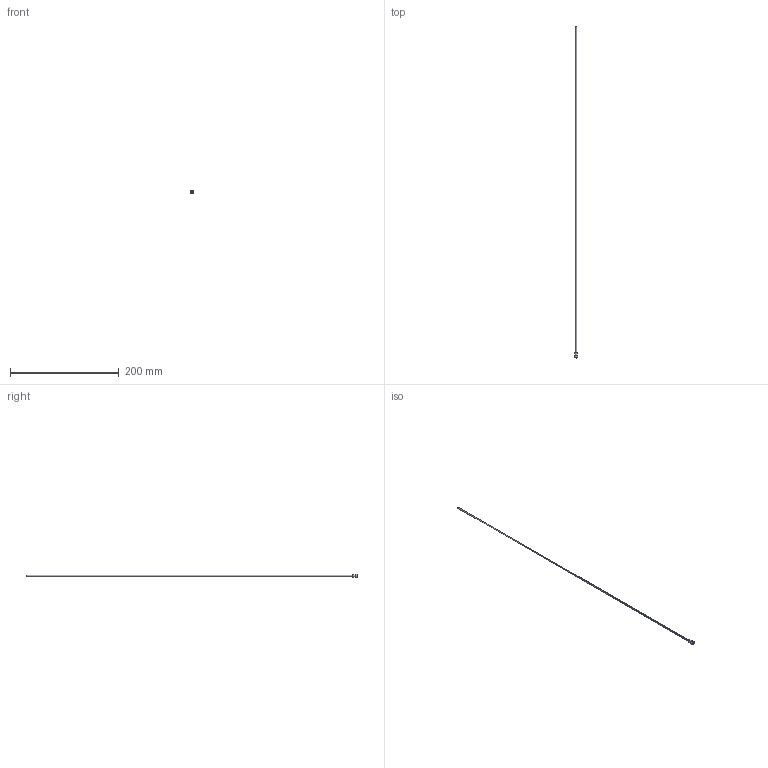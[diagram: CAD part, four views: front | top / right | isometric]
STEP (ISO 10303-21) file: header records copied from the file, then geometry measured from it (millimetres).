
FILE_DESCRIPTION(/* description */ (''),/* implementation_level */ '2;1');
FILE_NAME(/* name */ 'C:/Users/drich/Desktop/JR090T-24 v1.step',/* time_stamp */ '2019-12-30T13:01:05-06:00',/* author */ (''),/* organization */ (''),/* preprocessor_version */ 'ST-DEVELOPER v18',/* originating_system */ 'Autodesk Translation Framework v8.12.0.6',/* authorisation */ '');
FILE_SCHEMA (('AUTOMOTIVE_DESIGN { 1 0 10303 214 3 1 1 }'));
Length unit declared in the file: inch
Products named in the file (1): JR090T-24
Bounding box: 6.22 x 609.6 x 6.22 mm (x, y, z)
Volume: 895.5 mm3; surface area: 8239.6 mm2
Topology: 1 solids, 1 shells, 19 faces, 47 edges, 33 vertices
Faces by surface type: plane 11, cylinder 4, torus 3, cone 1
Full cylindrical faces by diameter (mm): 1.93 x1, 2.286 x1, 4.727 x1, 6.223 x1
Entity records: 624 total; most frequent: DIRECTION 111, CARTESIAN_POINT 100, ORIENTED_EDGE 94, EDGE_CURVE 47, AXIS2_PLACEMENT_3D 44, VERTEX_POINT 33, EDGE_LOOP 24, CIRCLE 24
